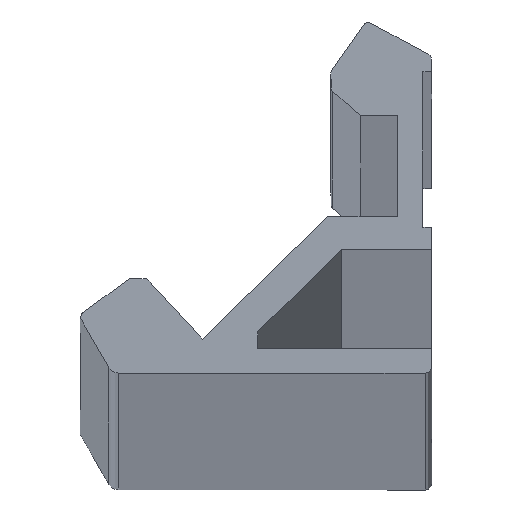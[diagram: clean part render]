
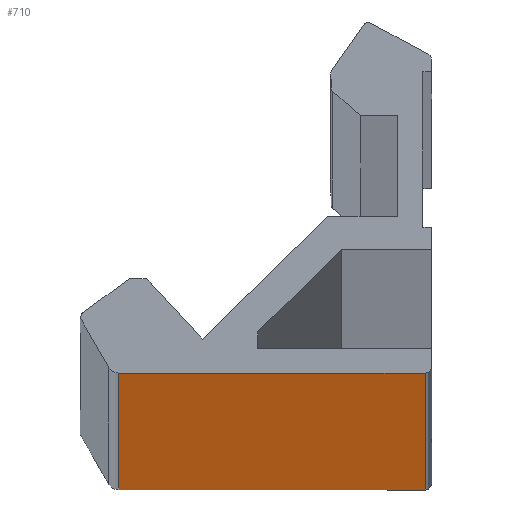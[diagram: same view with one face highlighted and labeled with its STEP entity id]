
A CAD part, top view. The second image highlights one B-rep face of the part: STEP entity #710.
In plain terms, the highlighted planar face has unit normal (0, -1, 0).
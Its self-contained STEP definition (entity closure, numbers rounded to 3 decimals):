
#49=FACE_OUTER_BOUND('',#86,.T.);
#86=EDGE_LOOP('',(#524,#525,#526,#527));
#139=LINE('',#1055,#226);
#155=LINE('',#1097,#242);
#156=LINE('',#1098,#243);
#157=LINE('',#1099,#244);
#226=VECTOR('',#844,13.737);
#242=VECTOR('',#872,13.737);
#243=VECTOR('',#873,3000.);
#244=VECTOR('',#874,3000.);
#312=VERTEX_POINT('',#1052);
#313=VERTEX_POINT('',#1054);
#332=VERTEX_POINT('',#1095);
#333=VERTEX_POINT('',#1096);
#387=EDGE_CURVE('',#312,#313,#139,.T.);
#408=EDGE_CURVE('',#332,#333,#155,.T.);
#409=EDGE_CURVE('',#332,#313,#156,.T.);
#410=EDGE_CURVE('',#333,#312,#157,.T.);
#524=ORIENTED_EDGE('',*,*,#408,.F.);
#525=ORIENTED_EDGE('',*,*,#409,.T.);
#526=ORIENTED_EDGE('',*,*,#387,.F.);
#527=ORIENTED_EDGE('',*,*,#410,.F.);
#682=PLANE('',#758);
#710=ADVANCED_FACE('',(#49),#682,.T.);
#758=AXIS2_PLACEMENT_3D('',#1094,#870,#871);
#844=DIRECTION('',(1.,0.,0.));
#870=DIRECTION('center_axis',(0.,-1.,0.));
#871=DIRECTION('ref_axis',(1.,0.,0.));
#872=DIRECTION('',(-1.,0.,0.));
#873=DIRECTION('',(0.,0.,1.));
#874=DIRECTION('',(0.,0.,1.));
#1052=CARTESIAN_POINT('',(-14.074,-6.552,3000.));
#1054=CARTESIAN_POINT('',(-0.337,-6.552,3000.));
#1055=CARTESIAN_POINT('',(-0.337,-6.552,3000.));
#1094=CARTESIAN_POINT('Origin',(-14.074,-6.552,0.));
#1095=CARTESIAN_POINT('',(-0.337,-6.552,0.));
#1096=CARTESIAN_POINT('',(-14.074,-6.552,0.));
#1097=CARTESIAN_POINT('',(-0.337,-6.552,0.));
#1098=CARTESIAN_POINT('',(-0.337,-6.552,0.));
#1099=CARTESIAN_POINT('',(-14.074,-6.552,0.));
